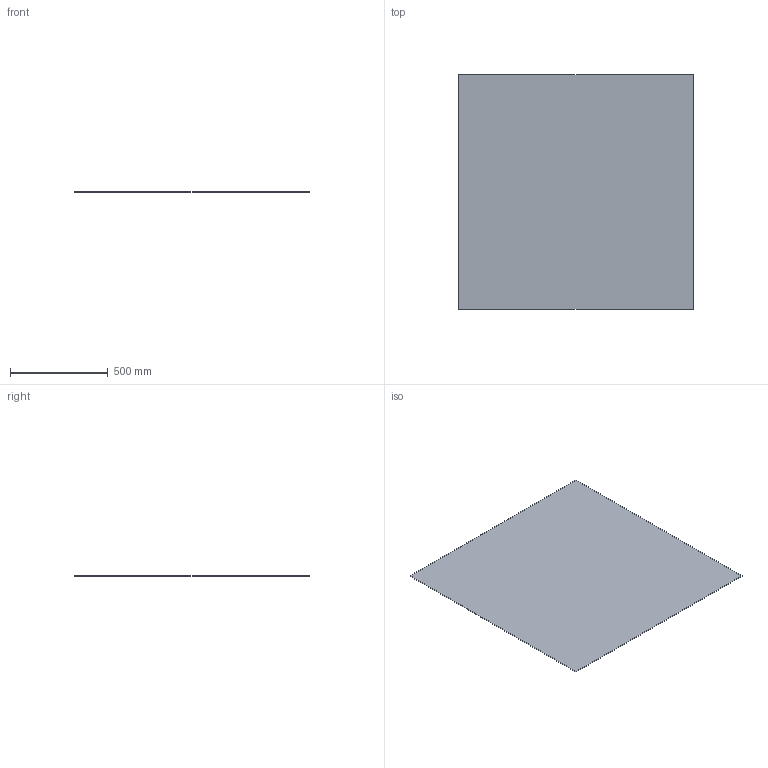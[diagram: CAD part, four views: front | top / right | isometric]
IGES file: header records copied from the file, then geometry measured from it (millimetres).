
Start section: SolidWorks IGES file using analytic representation for surfaces
Global section: file name: \\UTENTI\Dati Utenti\Tecnico\DC\2D - 3D per sito\3D superfici\DeCastelli-3D-Forma 120x120.igs; native system: SolidWorks 2022; preprocessor: SolidWorks 2022; author: Silviad; date: 240808.092933; units: millimetre
Bounding box: 1200 x 1200 x 2 mm (x, y, z)
Surface area: 2884800 mm2 (no closed solid volume)
Topology: 0 solids, 0 shells, 4 faces, 16 edges, 16 vertices
Faces by surface type: bspline 4
